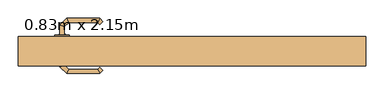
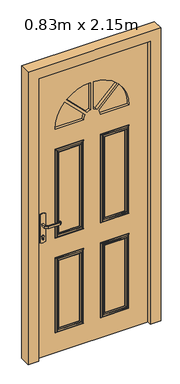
"""IFC4 building model written with IfcOpenShell, lengths in millimetres: door geometry, Entrée - 01 : 0.83m x 2.15m."""

from ifc_helpers import new_model, si_unit, point, frame, frame_2d, origin, place, context, project, spatial, polyline, circle_curve, ellipse_curve, trimmed, segment, composite_curve, outline, extrude, faceted_brep, source, transform, mapped, element, save
from ifc_brep_helpers import plane_surface, cylinder_surface, revolved_surface, advanced_brep


def door_0_83m_x_2_15m_d7885066(model_context):
    return source(origin(), model_context, "Body", "SolidModel", [
        extrude(outline(composite_curve([segment(polyline([(908.0464422, -360.0), (895.0, -360.0)]), True, "CONTINUOUS"), segment(trimmed(circle_curve(frame_2d((895.0, -355.0)), 5.0), [point((895.0, -360.0))], [point((895.0, -350.0))], False, "CARTESIAN"), True, "CONTINUOUS"), segment(polyline([(895.0, -350.0), (908.0464422, -350.0)]), True, "CONTINUOUS"), segment(trimmed(circle_curve(frame_2d((914.2914402, -355.0)), 8.0), [point((908.0464422, -350.0))], [point((908.0464422, -360.0))], False, "CARTESIAN"), True, "CONTINUOUS")], self_intersect=False)), frame((0.0, 65.2546167, 0.0), z_axis=(0.0, 1.0, 0.0), x_axis=(0.0, 0.0, 1.0)), (0.0, 0.0, 1.0), 5.0),
        extrude(outline(composite_curve([segment(polyline([(908.0464422, -360.0), (895.0, -360.0)]), True, "CONTINUOUS"), segment(trimmed(circle_curve(frame_2d((895.0, -355.0)), 5.0), [point((895.0, -360.0))], [point((895.0, -350.0))], False, "CARTESIAN"), True, "CONTINUOUS"), segment(polyline([(895.0, -350.0), (908.0464422, -350.0)]), True, "CONTINUOUS"), segment(trimmed(circle_curve(frame_2d((914.2914402, -355.0)), 8.0), [point((908.0464422, -350.0))], [point((908.0464422, -360.0))], False, "CARTESIAN"), True, "CONTINUOUS")], self_intersect=False)), frame((0.0, 130.2546167, 0.0), z_axis=(0.0, 1.0, 0.0), x_axis=(0.0, 0.0, 1.0)), (0.0, 0.0, 1.0), 3.0),
        advanced_brep(
        [(-349.0, 70.2546167, 993.0), (-361.0, 70.2546167, 993.0), (-361.0, 70.2546167, 1007.0), (-349.0, 70.2546167, 1007.0), (-349.0, 47.7694122, 1007.0), (-349.0, 47.7694122, 993.0), (-361.0, 42.7988495, 1007.0), (-361.0, 42.7988495, 993.0), (-337.5147186, 36.2841309, 1007.0), (-337.5147186, 36.2841309, 993.0), (-342.4852814, 24.2841309, 1007.0), (-342.4852814, 24.2841309, 993.0), (-257.4394977, 36.2841309, 1007.0), (-257.4394977, 36.2841309, 993.0), (-252.468935, 24.2841309, 1007.0), (-252.468935, 24.2841309, 993.0), (-252.1257892, 41.5978394, 993.0), (-252.1257892, 41.5978394, 1007.0), (-243.6405078, 33.112558, 1007.0), (-243.6405078, 33.112558, 993.0)],
        [
            (0, 1, circle_curve(frame((-355.0, 70.2546167, 1013.0457722), z_axis=(0.0, 1.0, 0.0), x_axis=(-1.0, 0.0, 0.0)), 20.9244589)),
            (1, 2),
            (2, 3, circle_curve(frame((-355.0, 70.2546167, 986.9542278), z_axis=(0.0, 1.0, 0.0), x_axis=(-1.0, 0.0, 0.0)), 20.9244589)),
            (3, 0),
            (3, 4),
            (4, 5),
            (5, 0),
            (2, 6),
            (6, 4, ellipse_curve(frame((-355.0, 45.2841309, 986.9542278), z_axis=(-0.3826834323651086, 0.923879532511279, 0.0), x_axis=(0.9238795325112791, 0.3826834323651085, 0.0)), 22.6484711, 20.9244589)),
            (1, 7),
            (7, 6),
            (5, 7, ellipse_curve(frame((-355.0, 45.2841309, 1013.0457722), z_axis=(-0.3826834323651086, 0.923879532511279, 0.0), x_axis=(0.9238795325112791, 0.3826834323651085, 0.0)), 22.6484711, 20.9244589)),
            (4, 8),
            (8, 9),
            (9, 5),
            (6, 10),
            (10, 8, ellipse_curve(frame((-340.0, 30.2841309, 986.9542278), z_axis=(-0.9238795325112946, 0.38268343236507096, 0.0), x_axis=(0.3826834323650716, 0.9238795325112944, 0.0)), 22.6484711, 20.9244589)),
            (7, 11),
            (11, 10),
            (9, 11, ellipse_curve(frame((-340.0, 30.2841309, 1013.0457722), z_axis=(-0.9238795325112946, 0.38268343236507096, 0.0), x_axis=(0.3826834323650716, 0.9238795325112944, 0.0)), 22.6484711, 20.9244589)),
            (8, 12),
            (12, 13),
            (13, 9),
            (10, 14),
            (14, 12, ellipse_curve(frame((-254.9542163, 30.2841309, 986.9542278), z_axis=(-0.9238795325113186, -0.38268343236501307, 0.0), x_axis=(-0.3826834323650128, 0.9238795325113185, 0.0)), 22.6484711, 20.9244589)),
            (11, 15),
            (15, 14),
            (13, 15, ellipse_curve(frame((-254.9542163, 30.2841309, 1013.0457722), z_axis=(-0.9238795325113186, -0.38268343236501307, 0.0), x_axis=(-0.3826834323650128, 0.9238795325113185, 0.0)), 22.6484711, 20.9244589)),
            (16, 17),
            (17, 18, circle_curve(frame((-247.8831485, 37.3551987, 986.9542278), z_axis=(0.707106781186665, 0.7071067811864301, 0.0), x_axis=(0.7071067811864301, -0.707106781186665, 0.0)), 20.9244589)),
            (18, 19),
            (19, 16, circle_curve(frame((-247.8831485, 37.3551987, 1013.0457722), z_axis=(0.707106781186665, 0.7071067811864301, 0.0), x_axis=(0.7071067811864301, -0.707106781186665, 0.0)), 20.9244589)),
            (12, 17),
            (16, 13),
            (14, 18),
            (15, 19),
        ],
        [
            plane_surface(frame((-364.2195445, 70.2546167, 1000.0), z_axis=(0.0, 1.0, 0.0), x_axis=(0.0, 0.0, 1.0))),
            plane_surface(frame((-349.0, 70.2546167, 993.0), z_axis=(1.0, 0.0, 0.0), x_axis=(0.0, -1.0, 0.0))),
            cylinder_surface(frame((-355.0, 70.2546167, 986.9542278), z_axis=(0.0, 1.0, 0.0), x_axis=(-1.0, 0.0, 0.0)), 20.9244589),
            plane_surface(frame((-361.0, 70.2546167, 1007.0), z_axis=(-1.0, 0.0, 0.0), x_axis=(0.0, -1.0, 0.0))),
            cylinder_surface(frame((-355.0, 70.2546167, 1013.0457722), z_axis=(0.0, 1.0, 0.0), x_axis=(-1.0, 0.0, 0.0)), 20.9244589),
            plane_surface(frame((-349.0, 47.7694122, 993.0), z_axis=(0.7071067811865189, 0.7071067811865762, 0.0), x_axis=(0.7071067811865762, -0.7071067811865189, 0.0))),
            cylinder_surface(frame((-355.0, 45.2841309, 986.9542278), z_axis=(-0.7071067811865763, 0.7071067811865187, 0.0), x_axis=(-0.7071067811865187, -0.7071067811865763, 0.0)), 20.9244589),
            plane_surface(frame((-361.0, 42.7988495, 1007.0), z_axis=(-0.7071067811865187, -0.7071067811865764, 0.0), x_axis=(0.7071067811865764, -0.7071067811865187, 0.0))),
            cylinder_surface(frame((-355.0, 45.2841309, 1013.0457722), z_axis=(-0.7071067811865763, 0.7071067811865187, 0.0), x_axis=(-0.7071067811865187, -0.7071067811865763, 0.0)), 20.9244589),
            plane_surface(frame((-337.5147186, 36.2841309, 993.0), z_axis=(0.0, 1.0, 0.0), x_axis=(1.0, 0.0, 0.0))),
            cylinder_surface(frame((-340.0, 30.2841309, 986.9542278), z_axis=(-1.0, 0.0, 0.0), x_axis=(0.0, -1.0, 0.0)), 20.9244589),
            plane_surface(frame((-342.4852814, 24.2841309, 1007.0), z_axis=(0.0, -1.0, 0.0), x_axis=(1.0, 0.0, 0.0))),
            cylinder_surface(frame((-340.0, 30.2841309, 1013.0457722), z_axis=(-1.0, 0.0, 0.0), x_axis=(0.0, -1.0, 0.0)), 20.9244589),
            plane_surface(frame((-247.8831485, 37.3551987, 990.7804555), z_axis=(0.7071067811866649, 0.7071067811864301, 0.0), x_axis=(0.7071067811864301, -0.7071067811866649, 0.0))),
            plane_surface(frame((-257.4394977, 36.2841309, 993.0), z_axis=(-0.7071067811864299, 0.7071067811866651, 0.0), x_axis=(0.7071067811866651, 0.7071067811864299, 0.0))),
            cylinder_surface(frame((-254.9542163, 30.2841309, 986.9542278), z_axis=(-0.707106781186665, -0.7071067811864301, 0.0), x_axis=(0.7071067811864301, -0.707106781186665, 0.0)), 20.9244589),
            plane_surface(frame((-252.468935, 24.2841309, 1007.0), z_axis=(0.7071067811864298, -0.7071067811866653, 0.0), x_axis=(0.7071067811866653, 0.7071067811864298, 0.0))),
            cylinder_surface(frame((-254.9542163, 30.2841309, 1013.0457722), z_axis=(-0.707106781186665, -0.7071067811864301, 0.0), x_axis=(0.7071067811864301, -0.707106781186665, 0.0)), 20.9244589),
        ],
        [
            (0, [[1, 2, 3, 4]]),
            (1, [[5, 6, 7, -4]]),
            (2, [[8, 9, -5, -3]]),
            (3, [[10, 11, -8, -2]]),
            (4, [[-7, 12, -10, -1]]),
            (5, [[13, 14, 15, -6]]),
            (6, [[16, 17, -13, -9]]),
            (7, [[18, 19, -16, -11]]),
            (8, [[-15, 20, -18, -12]]),
            (9, [[21, 22, 23, -14]]),
            (10, [[24, 25, -21, -17]]),
            (11, [[26, 27, -24, -19]]),
            (12, [[-23, 28, -26, -20]]),
            (13, [[29, 30, 31, 32]]),
            (14, [[33, -29, 34, -22]]),
            (15, [[35, -30, -33, -25]]),
            (16, [[36, -31, -35, -27]]),
            (17, [[-34, -32, -36, -28]]),
        ],
    ),
        advanced_brep(
        [(-361.0, 130.2546167, 1007.0), (-361.0, 130.2546167, 993.0), (-349.0, 130.2546167, 993.0), (-349.0, 130.2546167, 1007.0), (-349.0, 152.9350047, 1007.0), (-361.0, 157.9055674, 1007.0), (-349.0, 152.9350047, 993.0), (-361.0, 157.9055674, 993.0), (-337.6522273, 164.2827774, 1007.0), (-342.62279, 176.2827774, 1007.0), (-337.6522273, 164.2827774, 993.0), (-342.62279, 176.2827774, 993.0), (-257.4666408, 164.2827774, 1007.0), (-252.496078, 176.2827774, 1007.0), (-257.4666408, 164.2827774, 993.0), (-252.496078, 176.2827774, 993.0), (-243.6676509, 167.4543503, 1007.0), (-252.1529323, 158.9690689, 1007.0), (-252.1529323, 158.9690689, 993.0), (-243.6676509, 167.4543503, 993.0)],
        [
            (0, 1),
            (1, 2, circle_curve(frame((-355.0, 130.2546167, 1013.0457722), z_axis=(0.0, -1.0, 0.0), x_axis=(1.0, 0.0, 0.0)), 20.9244589)),
            (2, 3),
            (3, 0, circle_curve(frame((-355.0, 130.2546167, 986.9542278), z_axis=(0.0, -1.0, 0.0), x_axis=(1.0, 0.0, 0.0)), 20.9244589)),
            (3, 4),
            (4, 5, ellipse_curve(frame((-355.0, 155.4202861, 986.9542278), z_axis=(-0.3826834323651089, -0.9238795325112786, 0.0), x_axis=(0.9238795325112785, -0.3826834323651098, 0.0)), 22.6484711, 20.9244589)),
            (5, 0),
            (2, 6),
            (6, 4),
            (1, 7),
            (7, 6, ellipse_curve(frame((-355.0, 155.4202861, 1013.0457722), z_axis=(-0.3826834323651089, -0.9238795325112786, 0.0), x_axis=(0.9238795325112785, -0.3826834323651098, 0.0)), 22.6484711, 20.9244589)),
            (5, 7),
            (4, 8),
            (8, 9, ellipse_curve(frame((-340.1375086, 170.2827774, 986.9542278), z_axis=(-0.9238795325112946, -0.38268343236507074, 0.0), x_axis=(0.3826834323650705, -0.9238795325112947, 0.0)), 22.6484711, 20.9244589)),
            (9, 5),
            (6, 10),
            (10, 8),
            (7, 11),
            (11, 10, ellipse_curve(frame((-340.1375086, 170.2827774, 1013.0457722), z_axis=(-0.9238795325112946, -0.38268343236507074, 0.0), x_axis=(0.3826834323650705, -0.9238795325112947, 0.0)), 22.6484711, 20.9244589)),
            (9, 11),
            (8, 12),
            (12, 13, ellipse_curve(frame((-254.9813594, 170.2827774, 986.9542278), z_axis=(-0.9238795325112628, 0.3826834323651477, 0.0), x_axis=(-0.3826834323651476, -0.9238795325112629, 0.0)), 22.6484711, 20.9244589)),
            (13, 9),
            (10, 14),
            (14, 12),
            (11, 15),
            (15, 14, ellipse_curve(frame((-254.9813594, 170.2827774, 1013.0457722), z_axis=(-0.9238795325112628, 0.3826834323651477, 0.0), x_axis=(-0.3826834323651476, -0.9238795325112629, 0.0)), 22.6484711, 20.9244589)),
            (13, 15),
            (16, 17, circle_curve(frame((-247.9102916, 163.2117096, 986.9542278), z_axis=(0.7071067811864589, -0.7071067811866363, 0.0), x_axis=(-0.7071067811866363, -0.7071067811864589, 0.0)), 20.9244589)),
            (17, 18),
            (18, 19, circle_curve(frame((-247.9102916, 163.2117096, 1013.0457722), z_axis=(0.7071067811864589, -0.7071067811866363, 0.0), x_axis=(-0.7071067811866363, -0.7071067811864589, 0.0)), 20.9244589)),
            (19, 16),
            (12, 17),
            (16, 13),
            (14, 18),
            (15, 19),
        ],
        [
            plane_surface(frame((-364.2195445, 130.2546167, 1000.0), z_axis=(0.0, -1.0, 0.0), x_axis=(0.0, 0.0, -1.0))),
            cylinder_surface(frame((-355.0, 130.2546167, 986.9542278), z_axis=(0.0, -1.0, 0.0), x_axis=(1.0, 0.0, 0.0)), 20.9244589),
            plane_surface(frame((-349.0, 130.2546167, 1007.0), z_axis=(1.0, 0.0, 0.0), x_axis=(0.0, 1.0, 0.0))),
            cylinder_surface(frame((-355.0, 130.2546167, 1013.0457722), z_axis=(0.0, -1.0, 0.0), x_axis=(1.0, 0.0, 0.0)), 20.9244589),
            plane_surface(frame((-361.0, 130.2546167, 993.0), z_axis=(-1.0, 0.0, 0.0), x_axis=(0.0, 1.0, 0.0))),
            cylinder_surface(frame((-355.0, 155.4202861, 986.9542278), z_axis=(-0.7071067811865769, -0.7071067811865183, 0.0), x_axis=(0.7071067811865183, -0.7071067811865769, 0.0)), 20.9244589),
            plane_surface(frame((-349.0, 152.9350047, 1007.0), z_axis=(0.7071067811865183, -0.7071067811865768, 0.0), x_axis=(0.7071067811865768, 0.7071067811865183, 0.0))),
            cylinder_surface(frame((-355.0, 155.4202861, 1013.0457722), z_axis=(-0.7071067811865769, -0.7071067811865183, 0.0), x_axis=(0.7071067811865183, -0.7071067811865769, 0.0)), 20.9244589),
            plane_surface(frame((-361.0, 157.9055674, 993.0), z_axis=(-0.7071067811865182, 0.707106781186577, 0.0), x_axis=(0.707106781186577, 0.7071067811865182, 0.0))),
            cylinder_surface(frame((-340.1375086, 170.2827774, 986.9542278), z_axis=(-1.0, 0.0, 0.0), x_axis=(0.0, -1.0, 0.0)), 20.9244589),
            plane_surface(frame((-337.6522273, 164.2827774, 1007.0), z_axis=(0.0, -1.0, 0.0), x_axis=(1.0, 0.0, 0.0))),
            cylinder_surface(frame((-340.1375086, 170.2827774, 1013.0457722), z_axis=(-1.0, 0.0, 0.0), x_axis=(0.0, -1.0, 0.0)), 20.9244589),
            plane_surface(frame((-342.62279, 176.2827774, 993.0), z_axis=(0.0, 1.0, 0.0), x_axis=(1.0, 0.0, 0.0))),
            plane_surface(frame((-247.9102916, 163.2117096, 1009.2195445), z_axis=(0.7071067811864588, -0.7071067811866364, 0.0), x_axis=(0.7071067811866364, 0.7071067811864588, 0.0))),
            cylinder_surface(frame((-254.9813594, 170.2827774, 986.9542278), z_axis=(-0.7071067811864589, 0.7071067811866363, 0.0), x_axis=(-0.7071067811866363, -0.7071067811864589, 0.0)), 20.9244589),
            plane_surface(frame((-257.4666408, 164.2827774, 1007.0), z_axis=(-0.7071067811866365, -0.7071067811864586, 0.0), x_axis=(0.7071067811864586, -0.7071067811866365, 0.0))),
            cylinder_surface(frame((-254.9813594, 170.2827774, 1013.0457722), z_axis=(-0.7071067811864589, 0.7071067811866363, 0.0), x_axis=(-0.7071067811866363, -0.7071067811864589, 0.0)), 20.9244589),
            plane_surface(frame((-252.496078, 176.2827774, 993.0), z_axis=(0.7071067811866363, 0.7071067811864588, 0.0), x_axis=(0.7071067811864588, -0.7071067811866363, 0.0))),
        ],
        [
            (0, [[1, 2, 3, 4]]),
            (1, [[5, 6, 7, -4]]),
            (2, [[8, 9, -5, -3]]),
            (3, [[10, 11, -8, -2]]),
            (4, [[-7, 12, -10, -1]]),
            (5, [[13, 14, 15, -6]]),
            (6, [[16, 17, -13, -9]]),
            (7, [[18, 19, -16, -11]]),
            (8, [[-15, 20, -18, -12]]),
            (9, [[21, 22, 23, -14]]),
            (10, [[24, 25, -21, -17]]),
            (11, [[26, 27, -24, -19]]),
            (12, [[-23, 28, -26, -20]]),
            (13, [[29, 30, 31, 32]]),
            (14, [[33, -29, 34, -22]]),
            (15, [[35, -30, -33, -25]]),
            (16, [[36, -31, -35, -27]]),
            (17, [[-34, -32, -36, -28]]),
        ],
    ),
        extrude(outline(composite_curve([segment(trimmed(circle_curve(frame_2d((1045.3589838, -355.0)), 40.0), [point((1080.0, -335.0))], [point((1080.0, -375.0))], False, "CARTESIAN"), True, "CONTINUOUS"), segment(polyline([(1080.0, -375.0), (870.0, -375.0)]), True, "CONTINUOUS"), segment(trimmed(circle_curve(frame_2d((904.6410162, -355.0)), 40.0), [point((870.0, -375.0))], [point((870.0, -335.0))], False, "CARTESIAN"), True, "CONTINUOUS"), segment(polyline([(870.0, -335.0), (1080.0, -335.0)]), True, "CONTINUOUS")], self_intersect=False)), frame((0.0, 70.2546167, 0.0), z_axis=(0.0, 1.0, 0.0), x_axis=(0.0, 0.0, 1.0)), (0.0, 0.0, 1.0), 5.0),
        extrude(outline(composite_curve([segment(trimmed(circle_curve(frame_2d((904.6410162, -355.0)), 40.0), [point((870.0, -375.0))], [point((870.0, -335.0))], False, "CARTESIAN"), True, "CONTINUOUS"), segment(polyline([(870.0, -335.0), (1080.0, -335.0)]), True, "CONTINUOUS"), segment(trimmed(circle_curve(frame_2d((1045.3589838, -355.0)), 40.0), [point((1080.0, -335.0))], [point((1080.0, -375.0))], False, "CARTESIAN"), True, "CONTINUOUS"), segment(polyline([(1080.0, -375.0), (870.0, -375.0)]), True, "CONTINUOUS")], self_intersect=False)), frame((0.0, 125.2546167, 0.0), z_axis=(0.0, 1.0, 0.0), x_axis=(0.0, 0.0, 1.0)), (0.0, 0.0, 1.0), 5.0),
        faceted_brep([(-475.0, 45.2546167, 0.0), (-475.0, 125.2546167, 0.0), (-415.0, 125.2546167, 0.0), (-415.0, 75.2546167, 0.0), (-400.0, 75.2546167, 0.0), (-400.0, 45.2546167, 0.0), (-400.0, 45.2546167, 2135.0), (400.0, 45.2546167, 2135.0), (400.0, 45.2546167, 0.0), (475.0, 45.2546167, 0.0), (475.0, 45.2546167, 2210.0), (-475.0, 45.2546167, 2210.0), (-400.0, 75.2546167, 2135.0), (-415.0, 75.2546167, 2150.0), (415.0, 75.2546167, 2150.0), (415.0, 75.2546167, 0.0), (400.0, 75.2546167, 0.0), (400.0, 75.2546167, 2135.0), (-415.0, 125.2546167, 2150.0), (-475.0, 125.2546167, 2210.0), (475.0, 125.2546167, 2210.0), (475.0, 125.2546167, 0.0), (415.0, 125.2546167, 0.0), (415.0, 125.2546167, 2150.0)], [[[0, 1, 2, 3, 4, 5]], [[5, 6, 7, 8, 9, 10, 11, 0]], [[4, 12, 6, 5]], [[3, 13, 14, 15, 16, 17, 12, 4]], [[2, 18, 13, 3]], [[1, 19, 20, 21, 22, 23, 18, 2]], [[0, 11, 19, 1]], [[10, 9, 21, 20]], [[9, 8, 16, 15, 22, 21]], [[17, 16, 8, 7]], [[23, 22, 15, 14]], [[12, 17, 7, 6]], [[18, 23, 14, 13]], [[11, 10, 20, 19]]]),
        extrude(outline(composite_curve([segment(trimmed(circle_curve(frame_2d((1685.0, 0.0)), 265.0), [point((1865.1787653, -194.3209009))], [point((1685.0, -265.0))], False, "CARTESIAN"), True, "CONTINUOUS"), segment(polyline([(1685.0, -265.0), (1685.0, -60.0)]), True, "CONTINUOUS"), segment(trimmed(circle_curve(frame_2d((1685.0, 0.0)), 60.0), [point((1685.0, -60.0))], [point((1719.7619335, -48.9040691))], True, "CARTESIAN"), True, "CONTINUOUS"), segment(polyline([(1719.7619335, -48.9040691), (1865.1787653, -194.3209009)]), True, "CONTINUOUS")], self_intersect=False)), frame((0.0, 95.2546167, 0.0), z_axis=(0.0, 1.0, 0.0), x_axis=(0.0, 0.0, 1.0)), (0.0, 0.0, 1.0), 10.0),
        extrude(outline(composite_curve([segment(trimmed(circle_curve(frame_2d((1685.0, 0.0)), 265.0068632), [point((1949.8181217, -10.0))], [point((1879.3257574, -180.1836218))], False, "CARTESIAN"), True, "CONTINUOUS"), segment(polyline([(1879.3257574, -180.1836218), (1733.9040691, -34.7619335)]), True, "CONTINUOUS"), segment(trimmed(circle_curve(frame_2d((1685.0, 0.0)), 60.0), [point((1733.9040691, -34.7619335))], [point((1744.1607978, -10.0))], True, "CARTESIAN"), True, "CONTINUOUS"), segment(polyline([(1744.1607978, -10.0), (1949.8181217, -10.0)]), True, "CONTINUOUS")], self_intersect=False)), frame((0.0, 95.2546167, 0.0), z_axis=(0.0, 1.0, 0.0), x_axis=(0.0, 0.0, 1.0)), (0.0, 0.0, 1.0), 10.0),
        extrude(outline(composite_curve([segment(trimmed(circle_curve(frame_2d((1685.0, 0.0)), 60.0), [point((1744.1607978, 10.0))], [point((1733.9040691, 34.7619335))], True, "CARTESIAN"), True, "CONTINUOUS"), segment(polyline([(1733.9040691, 34.7619335), (1879.3257574, 180.1836218)]), True, "CONTINUOUS"), segment(trimmed(circle_curve(frame_2d((1685.0, 0.0)), 265.0068632), [point((1879.3257574, 180.1836218))], [point((1949.8181217, 10.0))], False, "CARTESIAN"), True, "CONTINUOUS"), segment(polyline([(1949.8181217, 10.0), (1744.1607978, 10.0)]), True, "CONTINUOUS")], self_intersect=False)), frame((0.0, 95.2546167, 0.0), z_axis=(0.0, 1.0, 0.0), x_axis=(0.0, 0.0, 1.0)), (0.0, 0.0, 1.0), 10.0),
        extrude(outline(composite_curve([segment(trimmed(circle_curve(frame_2d((1685.0, 0.0)), 265.0), [point((1685.0, 265.0))], [point((1865.1787653, 194.3209009))], False, "CARTESIAN"), True, "CONTINUOUS"), segment(polyline([(1865.1787653, 194.3209009), (1719.7619335, 48.9040691)]), True, "CONTINUOUS"), segment(trimmed(circle_curve(frame_2d((1685.0, 0.0)), 60.0), [point((1719.7619335, 48.9040691))], [point((1685.0, 60.0))], True, "CARTESIAN"), True, "CONTINUOUS"), segment(polyline([(1685.0, 60.0), (1685.0, 265.0)]), True, "CONTINUOUS")], self_intersect=False)), frame((0.0, 95.2546167, 0.0), z_axis=(0.0, 1.0, 0.0), x_axis=(0.0, 0.0, 1.0)), (0.0, 0.0, 1.0), 10.0),
        extrude(outline(polyline([(2150.0, -415.0), (0.0, -415.0), (0.0, 415.0), (2150.0, 415.0), (2150.0, -415.0)]), holes=[composite_curve([segment(polyline([(1865.1787653, -194.3209009), (1719.7619335, -48.9040691)]), True, "CONTINUOUS"), segment(trimmed(circle_curve(frame_2d((1685.0, 0.0)), 60.0), [point((1719.7619335, -48.9040691))], [point((1685.0, -60.0))], False, "CARTESIAN"), True, "CONTINUOUS"), segment(polyline([(1685.0, -60.0), (1685.0, -265.0)]), True, "CONTINUOUS"), segment(trimmed(circle_curve(frame_2d((1685.0, 0.0)), 265.0), [point((1685.0, -265.0))], [point((1865.1787653, -194.3209009))], True, "CARTESIAN"), True, "CONTINUOUS")], self_intersect=False), composite_curve([segment(polyline([(1719.7619335, 48.9040691), (1865.1787653, 194.3209009)]), True, "CONTINUOUS"), segment(trimmed(circle_curve(frame_2d((1685.0, 0.0)), 265.0), [point((1865.1787653, 194.3209009))], [point((1685.0, 265.0))], True, "CARTESIAN"), True, "CONTINUOUS"), segment(polyline([(1685.0, 265.0), (1685.0, 60.0)]), True, "CONTINUOUS"), segment(trimmed(circle_curve(frame_2d((1685.0, 0.0)), 60.0), [point((1685.0, 60.0))], [point((1719.7619335, 48.9040691))], False, "CARTESIAN"), True, "CONTINUOUS")], self_intersect=False), composite_curve([segment(polyline([(1949.8181217, -10.0), (1744.1607978, -10.0)]), True, "CONTINUOUS"), segment(trimmed(circle_curve(frame_2d((1685.0, 0.0)), 60.0), [point((1744.1607978, -10.0))], [point((1733.9040691, -34.7619335))], False, "CARTESIAN"), True, "CONTINUOUS"), segment(polyline([(1733.9040691, -34.7619335), (1879.3257574, -180.1836218)]), True, "CONTINUOUS"), segment(trimmed(circle_curve(frame_2d((1685.0, 0.0)), 265.0068632), [point((1879.3257574, -180.1836218))], [point((1949.8181217, -10.0))], True, "CARTESIAN"), True, "CONTINUOUS")], self_intersect=False), composite_curve([segment(trimmed(circle_curve(frame_2d((1685.0, 0.0)), 265.0068632), [point((1949.8181217, 10.0))], [point((1879.3257574, 180.1836218))], True, "CARTESIAN"), True, "CONTINUOUS"), segment(polyline([(1879.3257574, 180.1836218), (1733.9040691, 34.7619335)]), True, "CONTINUOUS"), segment(trimmed(circle_curve(frame_2d((1685.0, 0.0)), 60.0), [point((1733.9040691, 34.7619335))], [point((1744.1607978, 10.0))], False, "CARTESIAN"), True, "CONTINUOUS"), segment(polyline([(1744.1607978, 10.0), (1949.8181217, 10.0)]), True, "CONTINUOUS")], self_intersect=False)]), frame((0.0, 75.2546167, 0.0), z_axis=(0.0, 1.0, 0.0), x_axis=(0.0, 0.0, 1.0)), (0.0, 0.0, 1.0), 50.0),
        advanced_brep(
        [(-265.0, 73.2546167, 866.6666667), (-265.0, 73.2546167, 1535.0), (-265.0, 75.2546167, 1535.0), (-265.0, 75.2546167, 866.6666667), (-257.9088796, 68.2546167, 873.7577871), (-257.9088796, 68.2546167, 1527.9088796), (-262.851518, 73.2546167, 1532.851518), (-262.851518, 73.2546167, 868.8151487), (-245.0, 68.2546167, 886.6666667), (-245.0, 68.2546167, 1515.0), (-255.0, 68.2546167, 1525.0), (-255.0, 68.2546167, 876.6666667), (-236.9651836, 73.2546167, 894.701483), (-236.9651836, 73.2546167, 1506.9651836), (-242.0232109, 68.2546167, 1512.0232109), (-242.0232109, 68.2546167, 889.6434558), (-235.0, 75.2546167, 896.6666667), (-235.0, 75.2546167, 1505.0), (-235.0, 73.2546167, 1505.0), (-235.0, 73.2546167, 896.6666667), (-60.0, 73.2546167, 1535.0), (-60.0, 75.2546167, 1535.0), (-67.0911204, 68.2546167, 1527.9088796), (-62.148482, 73.2546167, 1532.851518), (-80.0, 68.2546167, 1515.0), (-70.0, 68.2546167, 1525.0), (-88.0348164, 73.2546167, 1506.9651836), (-82.9767891, 68.2546167, 1512.0232109), (-90.0, 75.2546167, 1505.0), (-90.0, 73.2546167, 1505.0), (-60.0, 73.2546167, 866.6666667), (-60.0, 75.2546167, 866.6666667), (-67.0911204, 68.2546167, 873.7577871), (-62.148482, 73.2546167, 868.8151487), (-80.0, 68.2546167, 886.6666667), (-70.0, 68.2546167, 876.6666667), (-88.0348164, 73.2546167, 894.701483), (-82.9767891, 68.2546167, 889.6434558), (-90.0, 75.2546167, 896.6666667), (-90.0, 73.2546167, 896.6666667)],
        [
            (0, 1),
            (1, 2),
            (2, 3),
            (3, 0),
            (4, 5),
            (5, 6),
            (6, 7),
            (7, 4),
            (8, 9),
            (9, 10, ellipse_curve(frame((-250.0, 63.0049426, 1520.0), z_axis=(0.7071067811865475, 0.0, 0.7071067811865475), x_axis=(-0.7071067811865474, 0.0, 0.7071067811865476)), 10.2527146, 7.249764)),
            (10, 11),
            (11, 8, ellipse_curve(frame((-250.0, 63.0049426, 881.6666667), z_axis=(0.7071067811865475, 0.0, -0.7071067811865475), x_axis=(0.7071067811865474, 0.0, 0.7071067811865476)), 10.2527146, 7.249764)),
            (12, 13),
            (13, 14),
            (14, 15),
            (15, 12),
            (16, 17),
            (17, 18),
            (18, 19),
            (19, 16),
            (1, 20),
            (20, 21),
            (21, 2),
            (5, 22),
            (22, 23),
            (23, 6),
            (9, 24),
            (24, 25, ellipse_curve(frame((-75.0, 63.0049426, 1520.0), z_axis=(0.7071067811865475, 0.0, -0.7071067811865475), x_axis=(0.7071067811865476, 0.0, 0.7071067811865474)), 10.2527146, 7.249764)),
            (25, 10),
            (13, 26),
            (26, 27),
            (27, 14),
            (17, 28),
            (28, 29),
            (29, 18),
            (20, 30),
            (30, 31),
            (31, 21),
            (22, 32),
            (32, 33),
            (33, 23),
            (24, 34),
            (34, 35, ellipse_curve(frame((-75.0, 63.0049426, 881.6666667), z_axis=(-0.7071067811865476, 0.0, -0.7071067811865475), x_axis=(0.7071067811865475, 0.0, -0.7071067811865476)), 10.2527146, 7.249764)),
            (35, 25),
            (26, 36),
            (36, 37),
            (37, 27),
            (28, 38),
            (38, 39),
            (39, 29),
            (31, 3),
            (16, 38),
            (30, 0),
            (33, 7),
            (32, 4),
            (35, 11),
            (34, 8),
            (37, 15),
            (36, 12),
            (39, 19),
        ],
        [
            plane_surface(frame((-265.0, 75.2546167, 866.6666667), z_axis=(-1.0, 0.0, 0.0), x_axis=(0.0, 0.0, 1.0))),
            plane_surface(frame((-262.851518, 73.2546167, 868.8151487), z_axis=(-0.7111744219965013, -0.7030156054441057, 0.0), x_axis=(0.0, 0.0, 1.0))),
            revolved_surface(polyline([(-257.249764, 63.0049426, 1527.2497640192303), (-257.249764, 63.0049426, 874.4169026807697)]), (-250.0, 63.0049426, 866.6666667), (0.0, 0.0, 1.0)),
            plane_surface(frame((-242.0232109, 68.2546167, 889.6434558), z_axis=(0.7030156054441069, -0.7111744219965, 0.0), x_axis=(0.0, 0.0, 1.0))),
            plane_surface(frame((-235.0, 73.2546167, 896.6666667), z_axis=(1.0, 0.0, 0.0), x_axis=(0.0, 0.0, 1.0))),
            plane_surface(frame((-265.0, 75.2546167, 1535.0), z_axis=(0.0, 0.0, 1.0), x_axis=(1.0, 0.0, 0.0))),
            plane_surface(frame((-262.851518, 73.2546167, 1532.851518), z_axis=(0.0, -0.7030156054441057, 0.7111744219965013), x_axis=(1.0, 0.0, 0.0))),
            revolved_surface(polyline([(-67.75023598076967, 63.0049426, 1527.249764), (-257.2497640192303, 63.0049426, 1527.249764)]), (-265.0, 63.0049426, 1520.0), (1.0, 0.0, 0.0)),
            plane_surface(frame((-242.0232109, 68.2546167, 1512.0232109), z_axis=(0.0, -0.7111744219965, -0.7030156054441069), x_axis=(1.0, 0.0, 0.0))),
            plane_surface(frame((-235.0, 73.2546167, 1505.0), z_axis=(0.0, 0.0, -1.0), x_axis=(1.0, 0.0, 0.0))),
            plane_surface(frame((-60.0, 75.2546167, 1535.0), z_axis=(1.0, 0.0, 0.0), x_axis=(0.0, 0.0, -1.0))),
            plane_surface(frame((-62.148482, 73.2546167, 1532.851518), z_axis=(0.7111744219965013, -0.7030156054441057, 0.0), x_axis=(0.0, 0.0, -1.0))),
            revolved_surface(polyline([(-67.750236, 63.0049426, 874.4169026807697), (-67.750236, 63.0049426, 1527.2497640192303)]), (-75.0, 63.0049426, 1535.0), (0.0, 0.0, -1.0)),
            plane_surface(frame((-82.9767891, 68.2546167, 1512.0232109), z_axis=(-0.7030156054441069, -0.7111744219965, 0.0), x_axis=(0.0, 0.0, -1.0))),
            plane_surface(frame((-90.0, 73.2546167, 1505.0), z_axis=(-1.0, 0.0, 0.0), x_axis=(0.0, 0.0, -1.0))),
            plane_surface(frame((-90.0, 75.2546167, 896.6666667), z_axis=(0.0, 1.0, 0.0), x_axis=(-1.0, 0.0, 0.0))),
            plane_surface(frame((-60.0, 75.2546167, 866.6666667), z_axis=(0.0, 0.0, -1.0), x_axis=(-1.0, 0.0, 0.0))),
            plane_surface(frame((-60.0, 73.2546167, 866.6666667), z_axis=(0.0, -1.0, 0.0), x_axis=(-1.0, 0.0, 0.0))),
            plane_surface(frame((-62.148482, 73.2546167, 868.8151487), z_axis=(0.0, -0.7030156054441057, -0.7111744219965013), x_axis=(-1.0, 0.0, 0.0))),
            plane_surface(frame((-67.0911204, 68.2546167, 873.7577871), z_axis=(0.0, -1.0, 0.0), x_axis=(-1.0, 0.0, 0.0))),
            revolved_surface(polyline([(-257.2497640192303, 63.0049426, 874.4169026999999), (-67.75023598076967, 63.0049426, 874.4169026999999)]), (-60.0, 63.0049426, 881.6666667), (-1.0, 0.0, 0.0)),
            plane_surface(frame((-80.0, 68.2546167, 886.6666667), z_axis=(0.0, -1.0, 0.0), x_axis=(-1.0, 0.0, 0.0))),
            plane_surface(frame((-82.9767891, 68.2546167, 889.6434558), z_axis=(0.0, -0.7111744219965, 0.7030156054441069), x_axis=(-1.0, 0.0, 0.0))),
            plane_surface(frame((-88.0348164, 73.2546167, 894.701483), z_axis=(0.0, -1.0, 0.0), x_axis=(-1.0, 0.0, 0.0))),
            plane_surface(frame((-90.0, 73.2546167, 896.6666667), z_axis=(0.0, 0.0, 1.0), x_axis=(-1.0, 0.0, 0.0))),
        ],
        [
            (0, [[1, 2, 3, 4]]),
            (1, [[5, 6, 7, 8]]),
            (2, [[9, 10, 11, 12]]),
            (3, [[13, 14, 15, 16]]),
            (4, [[17, 18, 19, 20]]),
            (5, [[21, 22, 23, -2]]),
            (6, [[24, 25, 26, -6]]),
            (7, [[27, 28, 29, -10]]),
            (8, [[30, 31, 32, -14]]),
            (9, [[33, 34, 35, -18]]),
            (10, [[36, 37, 38, -22]]),
            (11, [[39, 40, 41, -25]]),
            (12, [[42, 43, 44, -28]]),
            (13, [[45, 46, 47, -31]]),
            (14, [[48, 49, 50, -34]]),
            (15, [[-3, -23, -38, 51], [-17, 52, -48, -33]]),
            (16, [[53, -4, -51, -37]]),
            (17, [[-1, -53, -36, -21], [-7, -26, -41, 54]]),
            (18, [[55, -8, -54, -40]]),
            (19, [[-5, -55, -39, -24], [-11, -29, -44, 56]]),
            (20, [[57, -12, -56, -43]]),
            (21, [[-9, -57, -42, -27], [-15, -32, -47, 58]]),
            (22, [[59, -16, -58, -46]]),
            (23, [[-13, -59, -45, -30], [-19, -35, -50, 60]]),
            (24, [[-52, -20, -60, -49]]),
        ],
    ),
        advanced_brep(
        [(60.0, 73.2546167, 866.6666667), (60.0, 73.2546167, 1535.0), (60.0, 75.2546167, 1535.0), (60.0, 75.2546167, 866.6666667), (67.0911204, 68.2546167, 873.7577871), (67.0911204, 68.2546167, 1527.9088796), (62.148482, 73.2546167, 1532.851518), (62.148482, 73.2546167, 868.8151487), (80.0, 68.2546167, 886.6666667), (80.0, 68.2546167, 1515.0), (70.0, 68.2546167, 1525.0), (70.0, 68.2546167, 876.6666667), (88.0348164, 73.2546167, 894.701483), (88.0348164, 73.2546167, 1506.9651836), (82.9767891, 68.2546167, 1512.0232109), (82.9767891, 68.2546167, 889.6434558), (90.0, 75.2546167, 896.6666667), (90.0, 75.2546167, 1505.0), (90.0, 73.2546167, 1505.0), (90.0, 73.2546167, 896.6666667), (265.0, 73.2546167, 1535.0), (265.0, 75.2546167, 1535.0), (257.9088796, 68.2546167, 1527.9088796), (262.851518, 73.2546167, 1532.851518), (245.0, 68.2546167, 1515.0), (255.0, 68.2546167, 1525.0), (236.9651836, 73.2546167, 1506.9651836), (242.0232109, 68.2546167, 1512.0232109), (235.0, 75.2546167, 1505.0), (235.0, 73.2546167, 1505.0), (265.0, 73.2546167, 866.6666667), (265.0, 75.2546167, 866.6666667), (257.9088796, 68.2546167, 873.7577871), (262.851518, 73.2546167, 868.8151487), (245.0, 68.2546167, 886.6666667), (255.0, 68.2546167, 876.6666667), (236.9651836, 73.2546167, 894.701483), (242.0232109, 68.2546167, 889.6434558), (235.0, 75.2546167, 896.6666667), (235.0, 73.2546167, 896.6666667)],
        [
            (0, 1),
            (1, 2),
            (2, 3),
            (3, 0),
            (4, 5),
            (5, 6),
            (6, 7),
            (7, 4),
            (8, 9),
            (9, 10, ellipse_curve(frame((75.0, 63.0049426, 1520.0), z_axis=(0.7071067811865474, 0.0, 0.7071067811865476), x_axis=(-0.7071067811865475, 0.0, 0.7071067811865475)), 10.2527146, 7.249764)),
            (10, 11),
            (11, 8, ellipse_curve(frame((75.0, 63.0049426, 881.6666667), z_axis=(0.7071067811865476, 0.0, -0.7071067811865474), x_axis=(0.7071067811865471, 0.0, 0.7071067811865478)), 10.2527146, 7.249764)),
            (12, 13),
            (13, 14),
            (14, 15),
            (15, 12),
            (16, 17),
            (17, 18),
            (18, 19),
            (19, 16),
            (1, 20),
            (20, 21),
            (21, 2),
            (5, 22),
            (22, 23),
            (23, 6),
            (9, 24),
            (24, 25, ellipse_curve(frame((250.0, 63.0049426, 1520.0), z_axis=(0.7071067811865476, 0.0, -0.7071067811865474), x_axis=(0.7071067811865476, 0.0, 0.7071067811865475)), 10.2527146, 7.249764)),
            (25, 10),
            (13, 26),
            (26, 27),
            (27, 14),
            (17, 28),
            (28, 29),
            (29, 18),
            (20, 30),
            (30, 31),
            (31, 21),
            (22, 32),
            (32, 33),
            (33, 23),
            (24, 34),
            (34, 35, ellipse_curve(frame((250.0, 63.0049426, 881.6666667), z_axis=(-0.7071067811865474, 0.0, -0.7071067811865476), x_axis=(0.7071067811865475, 0.0, -0.7071067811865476)), 10.2527146, 7.249764)),
            (35, 25),
            (26, 36),
            (36, 37),
            (37, 27),
            (28, 38),
            (38, 39),
            (39, 29),
            (31, 3),
            (16, 38),
            (30, 0),
            (33, 7),
            (32, 4),
            (35, 11),
            (34, 8),
            (37, 15),
            (36, 12),
            (39, 19),
        ],
        [
            plane_surface(frame((60.0, 75.2546167, 866.6666667), z_axis=(-1.0, 0.0, 0.0), x_axis=(0.0, 0.0, 1.0))),
            plane_surface(frame((62.148482, 73.2546167, 868.8151487), z_axis=(-0.7111744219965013, -0.7030156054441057, 0.0), x_axis=(0.0, 0.0, 1.0))),
            revolved_surface(polyline([(67.750236, 63.0049426, 1527.2497640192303), (67.750236, 63.0049426, 874.4169026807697)]), (75.0, 63.0049426, 866.6666667), (0.0, 0.0, 1.0)),
            plane_surface(frame((82.9767891, 68.2546167, 889.6434558), z_axis=(0.7030156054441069, -0.7111744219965, 0.0), x_axis=(0.0, 0.0, 1.0))),
            plane_surface(frame((90.0, 73.2546167, 896.6666667), z_axis=(1.0, 0.0, 0.0), x_axis=(0.0, 0.0, 1.0))),
            plane_surface(frame((60.0, 75.2546167, 1535.0), z_axis=(0.0, 0.0, 1.0), x_axis=(1.0, 0.0, 0.0))),
            plane_surface(frame((62.148482, 73.2546167, 1532.851518), z_axis=(0.0, -0.7030156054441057, 0.7111744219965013), x_axis=(1.0, 0.0, 0.0))),
            revolved_surface(polyline([(257.2497640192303, 63.0049426, 1527.249764), (67.75023598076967, 63.0049426, 1527.249764)]), (60.0, 63.0049426, 1520.0), (1.0, 0.0, 0.0)),
            plane_surface(frame((82.9767891, 68.2546167, 1512.0232109), z_axis=(0.0, -0.7111744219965, -0.7030156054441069), x_axis=(1.0, 0.0, 0.0))),
            plane_surface(frame((90.0, 73.2546167, 1505.0), z_axis=(0.0, 0.0, -1.0), x_axis=(1.0, 0.0, 0.0))),
            plane_surface(frame((265.0, 75.2546167, 1535.0), z_axis=(1.0, 0.0, 0.0), x_axis=(0.0, 0.0, -1.0))),
            plane_surface(frame((262.851518, 73.2546167, 1532.851518), z_axis=(0.7111744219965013, -0.7030156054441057, 0.0), x_axis=(0.0, 0.0, -1.0))),
            revolved_surface(polyline([(257.249764, 63.0049426, 874.4169026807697), (257.249764, 63.0049426, 1527.2497640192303)]), (250.0, 63.0049426, 1535.0), (0.0, 0.0, -1.0)),
            plane_surface(frame((242.0232109, 68.2546167, 1512.0232109), z_axis=(-0.7030156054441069, -0.7111744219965, 0.0), x_axis=(0.0, 0.0, -1.0))),
            plane_surface(frame((235.0, 73.2546167, 1505.0), z_axis=(-1.0, 0.0, 0.0), x_axis=(0.0, 0.0, -1.0))),
            plane_surface(frame((235.0, 75.2546167, 896.6666667), z_axis=(0.0, 1.0, 0.0), x_axis=(-1.0, 0.0, 0.0))),
            plane_surface(frame((265.0, 75.2546167, 866.6666667), z_axis=(0.0, 0.0, -1.0), x_axis=(-1.0, 0.0, 0.0))),
            plane_surface(frame((265.0, 73.2546167, 866.6666667), z_axis=(0.0, -1.0, 0.0), x_axis=(-1.0, 0.0, 0.0))),
            plane_surface(frame((262.851518, 73.2546167, 868.8151487), z_axis=(0.0, -0.7030156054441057, -0.7111744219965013), x_axis=(-1.0, 0.0, 0.0))),
            plane_surface(frame((257.9088796, 68.2546167, 873.7577871), z_axis=(0.0, -1.0, 0.0), x_axis=(-1.0, 0.0, 0.0))),
            revolved_surface(polyline([(67.75023598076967, 63.0049426, 874.4169026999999), (257.2497640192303, 63.0049426, 874.4169026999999)]), (265.0, 63.0049426, 881.6666667), (-1.0, 0.0, 0.0)),
            plane_surface(frame((245.0, 68.2546167, 886.6666667), z_axis=(0.0, -1.0, 0.0), x_axis=(-1.0, 0.0, 0.0))),
            plane_surface(frame((242.0232109, 68.2546167, 889.6434558), z_axis=(0.0, -0.7111744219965, 0.7030156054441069), x_axis=(-1.0, 0.0, 0.0))),
            plane_surface(frame((236.9651836, 73.2546167, 894.701483), z_axis=(0.0, -1.0, 0.0), x_axis=(-1.0, 0.0, 0.0))),
            plane_surface(frame((235.0, 73.2546167, 896.6666667), z_axis=(0.0, 0.0, 1.0), x_axis=(-1.0, 0.0, 0.0))),
        ],
        [
            (0, [[1, 2, 3, 4]]),
            (1, [[5, 6, 7, 8]]),
            (2, [[9, 10, 11, 12]]),
            (3, [[13, 14, 15, 16]]),
            (4, [[17, 18, 19, 20]]),
            (5, [[21, 22, 23, -2]]),
            (6, [[24, 25, 26, -6]]),
            (7, [[27, 28, 29, -10]]),
            (8, [[30, 31, 32, -14]]),
            (9, [[33, 34, 35, -18]]),
            (10, [[36, 37, 38, -22]]),
            (11, [[39, 40, 41, -25]]),
            (12, [[42, 43, 44, -28]]),
            (13, [[45, 46, 47, -31]]),
            (14, [[48, 49, 50, -34]]),
            (15, [[-3, -23, -38, 51], [-17, 52, -48, -33]]),
            (16, [[53, -4, -51, -37]]),
            (17, [[-1, -53, -36, -21], [-7, -26, -41, 54]]),
            (18, [[55, -8, -54, -40]]),
            (19, [[-5, -55, -39, -24], [-11, -29, -44, 56]]),
            (20, [[57, -12, -56, -43]]),
            (21, [[-9, -57, -42, -27], [-15, -32, -47, 58]]),
            (22, [[59, -16, -58, -46]]),
            (23, [[-13, -59, -45, -30], [-19, -35, -50, 60]]),
            (24, [[-52, -20, -60, -49]]),
        ],
    ),
        advanced_brep(
        [(-265.0, 73.2546167, 150.0), (-265.0, 73.2546167, 716.6666667), (-265.0, 75.2546167, 716.6666667), (-265.0, 75.2546167, 150.0), (-257.9088796, 68.2546167, 157.0911204), (-257.9088796, 68.2546167, 709.5755462), (-262.851518, 73.2546167, 714.5181846), (-262.851518, 73.2546167, 152.148482), (-245.0, 68.2546167, 170.0), (-245.0, 68.2546167, 696.6666667), (-255.0, 68.2546167, 706.6666667), (-255.0, 68.2546167, 160.0), (-236.9651836, 73.2546167, 178.0348164), (-236.9651836, 73.2546167, 688.6318503), (-242.0232109, 68.2546167, 693.6898776), (-242.0232109, 68.2546167, 172.9767891), (-235.0, 75.2546167, 180.0), (-235.0, 75.2546167, 686.6666667), (-235.0, 73.2546167, 686.6666667), (-235.0, 73.2546167, 180.0), (-60.0, 73.2546167, 716.6666667), (-60.0, 75.2546167, 716.6666667), (-67.0911204, 68.2546167, 709.5755462), (-62.148482, 73.2546167, 714.5181846), (-80.0, 68.2546167, 696.6666667), (-70.0, 68.2546167, 706.6666667), (-88.0348164, 73.2546167, 688.6318503), (-82.9767891, 68.2546167, 693.6898776), (-90.0, 75.2546167, 686.6666667), (-90.0, 73.2546167, 686.6666667), (-60.0, 73.2546167, 150.0), (-60.0, 75.2546167, 150.0), (-67.0911204, 68.2546167, 157.0911204), (-62.148482, 73.2546167, 152.148482), (-80.0, 68.2546167, 170.0), (-70.0, 68.2546167, 160.0), (-88.0348164, 73.2546167, 178.0348164), (-82.9767891, 68.2546167, 172.9767891), (-90.0, 75.2546167, 180.0), (-90.0, 73.2546167, 180.0)],
        [
            (0, 1),
            (1, 2),
            (2, 3),
            (3, 0),
            (4, 5),
            (5, 6),
            (6, 7),
            (7, 4),
            (8, 9),
            (9, 10, ellipse_curve(frame((-250.0, 63.0049426, 701.6666667), z_axis=(0.7071067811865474, 0.0, 0.7071067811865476), x_axis=(-0.7071067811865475, 0.0, 0.7071067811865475)), 10.2527146, 7.249764)),
            (10, 11),
            (11, 8, ellipse_curve(frame((-250.0, 63.0049426, 165.0), z_axis=(0.7071067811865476, 0.0, -0.7071067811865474), x_axis=(0.7071067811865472, 0.0, 0.7071067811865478)), 10.2527146, 7.249764)),
            (12, 13),
            (13, 14),
            (14, 15),
            (15, 12),
            (16, 17),
            (17, 18),
            (18, 19),
            (19, 16),
            (1, 20),
            (20, 21),
            (21, 2),
            (5, 22),
            (22, 23),
            (23, 6),
            (9, 24),
            (24, 25, ellipse_curve(frame((-75.0, 63.0049426, 701.6666667), z_axis=(0.7071067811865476, 0.0, -0.7071067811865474), x_axis=(0.7071067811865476, 0.0, 0.7071067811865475)), 10.2527146, 7.249764)),
            (25, 10),
            (13, 26),
            (26, 27),
            (27, 14),
            (17, 28),
            (28, 29),
            (29, 18),
            (20, 30),
            (30, 31),
            (31, 21),
            (22, 32),
            (32, 33),
            (33, 23),
            (24, 34),
            (34, 35, ellipse_curve(frame((-75.0, 63.0049426, 165.0), z_axis=(-0.7071067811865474, 0.0, -0.7071067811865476), x_axis=(0.7071067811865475, 0.0, -0.7071067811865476)), 10.2527146, 7.249764)),
            (35, 25),
            (26, 36),
            (36, 37),
            (37, 27),
            (28, 38),
            (38, 39),
            (39, 29),
            (31, 3),
            (16, 38),
            (30, 0),
            (33, 7),
            (32, 4),
            (35, 11),
            (34, 8),
            (37, 15),
            (36, 12),
            (39, 19),
        ],
        [
            plane_surface(frame((-265.0, 75.2546167, 150.0), z_axis=(-1.0, 0.0, 0.0), x_axis=(0.0, 0.0, 1.0))),
            plane_surface(frame((-262.851518, 73.2546167, 152.148482), z_axis=(-0.7111744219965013, -0.7030156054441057, 0.0), x_axis=(0.0, 0.0, 1.0))),
            revolved_surface(polyline([(-257.249764, 63.0049426, 708.9164307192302), (-257.249764, 63.0049426, 157.75023598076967)]), (-250.0, 63.0049426, 150.0), (0.0, 0.0, 1.0)),
            plane_surface(frame((-242.0232109, 68.2546167, 172.9767891), z_axis=(0.7030156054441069, -0.7111744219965, 0.0), x_axis=(0.0, 0.0, 1.0))),
            plane_surface(frame((-235.0, 73.2546167, 180.0), z_axis=(1.0, 0.0, 0.0), x_axis=(0.0, 0.0, 1.0))),
            plane_surface(frame((-265.0, 75.2546167, 716.6666667), z_axis=(0.0, 0.0, 1.0), x_axis=(1.0, 0.0, 0.0))),
            plane_surface(frame((-262.851518, 73.2546167, 714.5181846), z_axis=(0.0, -0.7030156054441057, 0.7111744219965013), x_axis=(1.0, 0.0, 0.0))),
            revolved_surface(polyline([(-67.75023598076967, 63.0049426, 708.9164307), (-257.2497640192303, 63.0049426, 708.9164307)]), (-265.0, 63.0049426, 701.6666667), (1.0, 0.0, 0.0)),
            plane_surface(frame((-242.0232109, 68.2546167, 693.6898776), z_axis=(0.0, -0.7111744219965, -0.7030156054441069), x_axis=(1.0, 0.0, 0.0))),
            plane_surface(frame((-235.0, 73.2546167, 686.6666667), z_axis=(0.0, 0.0, -1.0), x_axis=(1.0, 0.0, 0.0))),
            plane_surface(frame((-60.0, 75.2546167, 716.6666667), z_axis=(1.0, 0.0, 0.0), x_axis=(0.0, 0.0, -1.0))),
            plane_surface(frame((-62.148482, 73.2546167, 714.5181846), z_axis=(0.7111744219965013, -0.7030156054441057, 0.0), x_axis=(0.0, 0.0, -1.0))),
            revolved_surface(polyline([(-67.750236, 63.0049426, 157.75023598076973), (-67.750236, 63.0049426, 708.9164307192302)]), (-75.0, 63.0049426, 716.6666667), (0.0, 0.0, -1.0)),
            plane_surface(frame((-82.9767891, 68.2546167, 693.6898776), z_axis=(-0.7030156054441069, -0.7111744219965, 0.0), x_axis=(0.0, 0.0, -1.0))),
            plane_surface(frame((-90.0, 73.2546167, 686.6666667), z_axis=(-1.0, 0.0, 0.0), x_axis=(0.0, 0.0, -1.0))),
            plane_surface(frame((-90.0, 75.2546167, 180.0), z_axis=(0.0, 1.0, 0.0), x_axis=(-1.0, 0.0, 0.0))),
            plane_surface(frame((-60.0, 75.2546167, 150.0), z_axis=(0.0, 0.0, -1.0), x_axis=(-1.0, 0.0, 0.0))),
            plane_surface(frame((-60.0, 73.2546167, 150.0), z_axis=(0.0, -1.0, 0.0), x_axis=(-1.0, 0.0, 0.0))),
            plane_surface(frame((-62.148482, 73.2546167, 152.148482), z_axis=(0.0, -0.7030156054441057, -0.7111744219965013), x_axis=(-1.0, 0.0, 0.0))),
            plane_surface(frame((-67.0911204, 68.2546167, 157.0911204), z_axis=(0.0, -1.0, 0.0), x_axis=(-1.0, 0.0, 0.0))),
            revolved_surface(polyline([(-257.2497640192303, 63.0049426, 157.750236), (-67.75023598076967, 63.0049426, 157.750236)]), (-60.0, 63.0049426, 165.0), (-1.0, 0.0, 0.0)),
            plane_surface(frame((-80.0, 68.2546167, 170.0), z_axis=(0.0, -1.0, 0.0), x_axis=(-1.0, 0.0, 0.0))),
            plane_surface(frame((-82.9767891, 68.2546167, 172.9767891), z_axis=(0.0, -0.7111744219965, 0.7030156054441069), x_axis=(-1.0, 0.0, 0.0))),
            plane_surface(frame((-88.0348164, 73.2546167, 178.0348164), z_axis=(0.0, -1.0, 0.0), x_axis=(-1.0, 0.0, 0.0))),
            plane_surface(frame((-90.0, 73.2546167, 180.0), z_axis=(0.0, 0.0, 1.0), x_axis=(-1.0, 0.0, 0.0))),
        ],
        [
            (0, [[1, 2, 3, 4]]),
            (1, [[5, 6, 7, 8]]),
            (2, [[9, 10, 11, 12]]),
            (3, [[13, 14, 15, 16]]),
            (4, [[17, 18, 19, 20]]),
            (5, [[21, 22, 23, -2]]),
            (6, [[24, 25, 26, -6]]),
            (7, [[27, 28, 29, -10]]),
            (8, [[30, 31, 32, -14]]),
            (9, [[33, 34, 35, -18]]),
            (10, [[36, 37, 38, -22]]),
            (11, [[39, 40, 41, -25]]),
            (12, [[42, 43, 44, -28]]),
            (13, [[45, 46, 47, -31]]),
            (14, [[48, 49, 50, -34]]),
            (15, [[-3, -23, -38, 51], [-17, 52, -48, -33]]),
            (16, [[53, -4, -51, -37]]),
            (17, [[-1, -53, -36, -21], [-7, -26, -41, 54]]),
            (18, [[55, -8, -54, -40]]),
            (19, [[-5, -55, -39, -24], [-11, -29, -44, 56]]),
            (20, [[57, -12, -56, -43]]),
            (21, [[-9, -57, -42, -27], [-15, -32, -47, 58]]),
            (22, [[59, -16, -58, -46]]),
            (23, [[-13, -59, -45, -30], [-19, -35, -50, 60]]),
            (24, [[-52, -20, -60, -49]]),
        ],
    ),
        advanced_brep(
        [(60.0, 73.2546167, 150.0), (60.0, 73.2546167, 716.6666667), (60.0, 75.2546167, 716.6666667), (60.0, 75.2546167, 150.0), (67.0911204, 68.2546167, 157.0911204), (67.0911204, 68.2546167, 709.5755462), (62.148482, 73.2546167, 714.5181846), (62.148482, 73.2546167, 152.148482), (80.0, 68.2546167, 170.0), (80.0, 68.2546167, 696.6666667), (70.0, 68.2546167, 706.6666667), (70.0, 68.2546167, 160.0), (88.0348164, 73.2546167, 178.0348164), (88.0348164, 73.2546167, 688.6318503), (82.9767891, 68.2546167, 693.6898776), (82.9767891, 68.2546167, 172.9767891), (90.0, 75.2546167, 180.0), (90.0, 75.2546167, 686.6666667), (90.0, 73.2546167, 686.6666667), (90.0, 73.2546167, 180.0), (265.0, 73.2546167, 716.6666667), (265.0, 75.2546167, 716.6666667), (257.9088796, 68.2546167, 709.5755462), (262.851518, 73.2546167, 714.5181846), (245.0, 68.2546167, 696.6666667), (255.0, 68.2546167, 706.6666667), (236.9651836, 73.2546167, 688.6318503), (242.0232109, 68.2546167, 693.6898776), (235.0, 75.2546167, 686.6666667), (235.0, 73.2546167, 686.6666667), (265.0, 73.2546167, 150.0), (265.0, 75.2546167, 150.0), (257.9088796, 68.2546167, 157.0911204), (262.851518, 73.2546167, 152.148482), (245.0, 68.2546167, 170.0), (255.0, 68.2546167, 160.0), (236.9651836, 73.2546167, 178.0348164), (242.0232109, 68.2546167, 172.9767891), (235.0, 75.2546167, 180.0), (235.0, 73.2546167, 180.0)],
        [
            (0, 1),
            (1, 2),
            (2, 3),
            (3, 0),
            (4, 5),
            (5, 6),
            (6, 7),
            (7, 4),
            (8, 9),
            (9, 10, ellipse_curve(frame((75.0, 63.0049426, 701.6666667), z_axis=(0.7071067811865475, 0.0, 0.7071067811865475), x_axis=(-0.7071067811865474, 0.0, 0.7071067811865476)), 10.2527146, 7.249764)),
            (10, 11),
            (11, 8, ellipse_curve(frame((75.0, 63.0049426, 165.0), z_axis=(0.7071067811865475, 0.0, -0.7071067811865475), x_axis=(0.7071067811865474, 0.0, 0.7071067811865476)), 10.2527146, 7.249764)),
            (12, 13),
            (13, 14),
            (14, 15),
            (15, 12),
            (16, 17),
            (17, 18),
            (18, 19),
            (19, 16),
            (1, 20),
            (20, 21),
            (21, 2),
            (5, 22),
            (22, 23),
            (23, 6),
            (9, 24),
            (24, 25, ellipse_curve(frame((250.0, 63.0049426, 701.6666667), z_axis=(0.7071067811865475, 0.0, -0.7071067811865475), x_axis=(0.7071067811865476, 0.0, 0.7071067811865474)), 10.2527146, 7.249764)),
            (25, 10),
            (13, 26),
            (26, 27),
            (27, 14),
            (17, 28),
            (28, 29),
            (29, 18),
            (20, 30),
            (30, 31),
            (31, 21),
            (22, 32),
            (32, 33),
            (33, 23),
            (24, 34),
            (34, 35, ellipse_curve(frame((250.0, 63.0049426, 165.0), z_axis=(-0.7071067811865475, 0.0, -0.7071067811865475), x_axis=(0.7071067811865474, 0.0, -0.7071067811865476)), 10.2527146, 7.249764)),
            (35, 25),
            (26, 36),
            (36, 37),
            (37, 27),
            (28, 38),
            (38, 39),
            (39, 29),
            (31, 3),
            (16, 38),
            (30, 0),
            (33, 7),
            (32, 4),
            (35, 11),
            (34, 8),
            (37, 15),
            (36, 12),
            (39, 19),
        ],
        [
            plane_surface(frame((60.0, 75.2546167, 150.0), z_axis=(-1.0, 0.0, 0.0), x_axis=(0.0, 0.0, 1.0))),
            plane_surface(frame((62.148482, 73.2546167, 152.148482), z_axis=(-0.7111744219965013, -0.7030156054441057, 0.0), x_axis=(0.0, 0.0, 1.0))),
            revolved_surface(polyline([(67.750236, 63.0049426, 708.9164307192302), (67.750236, 63.0049426, 157.75023598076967)]), (75.0, 63.0049426, 150.0), (0.0, 0.0, 1.0)),
            plane_surface(frame((82.9767891, 68.2546167, 172.9767891), z_axis=(0.7030156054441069, -0.7111744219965, 0.0), x_axis=(0.0, 0.0, 1.0))),
            plane_surface(frame((90.0, 73.2546167, 180.0), z_axis=(1.0, 0.0, 0.0), x_axis=(0.0, 0.0, 1.0))),
            plane_surface(frame((60.0, 75.2546167, 716.6666667), z_axis=(0.0, 0.0, 1.0), x_axis=(1.0, 0.0, 0.0))),
            plane_surface(frame((62.148482, 73.2546167, 714.5181846), z_axis=(0.0, -0.7030156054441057, 0.7111744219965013), x_axis=(1.0, 0.0, 0.0))),
            revolved_surface(polyline([(257.2497640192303, 63.0049426, 708.9164307), (67.75023598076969, 63.0049426, 708.9164307)]), (60.0, 63.0049426, 701.6666667), (1.0, 0.0, 0.0)),
            plane_surface(frame((82.9767891, 68.2546167, 693.6898776), z_axis=(0.0, -0.7111744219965, -0.7030156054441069), x_axis=(1.0, 0.0, 0.0))),
            plane_surface(frame((90.0, 73.2546167, 686.6666667), z_axis=(0.0, 0.0, -1.0), x_axis=(1.0, 0.0, 0.0))),
            plane_surface(frame((265.0, 75.2546167, 716.6666667), z_axis=(1.0, 0.0, 0.0), x_axis=(0.0, 0.0, -1.0))),
            plane_surface(frame((262.851518, 73.2546167, 714.5181846), z_axis=(0.7111744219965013, -0.7030156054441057, 0.0), x_axis=(0.0, 0.0, -1.0))),
            revolved_surface(polyline([(257.249764, 63.0049426, 157.75023598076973), (257.249764, 63.0049426, 708.9164307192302)]), (250.0, 63.0049426, 716.6666667), (0.0, 0.0, -1.0)),
            plane_surface(frame((242.0232109, 68.2546167, 693.6898776), z_axis=(-0.7030156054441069, -0.7111744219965, 0.0), x_axis=(0.0, 0.0, -1.0))),
            plane_surface(frame((235.0, 73.2546167, 686.6666667), z_axis=(-1.0, 0.0, 0.0), x_axis=(0.0, 0.0, -1.0))),
            plane_surface(frame((235.0, 75.2546167, 180.0), z_axis=(0.0, 1.0, 0.0), x_axis=(-1.0, 0.0, 0.0))),
            plane_surface(frame((265.0, 75.2546167, 150.0), z_axis=(0.0, 0.0, -1.0), x_axis=(-1.0, 0.0, 0.0))),
            plane_surface(frame((265.0, 73.2546167, 150.0), z_axis=(0.0, -1.0, 0.0), x_axis=(-1.0, 0.0, 0.0))),
            plane_surface(frame((262.851518, 73.2546167, 152.148482), z_axis=(0.0, -0.7030156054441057, -0.7111744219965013), x_axis=(-1.0, 0.0, 0.0))),
            plane_surface(frame((257.9088796, 68.2546167, 157.0911204), z_axis=(0.0, -1.0, 0.0), x_axis=(-1.0, 0.0, 0.0))),
            revolved_surface(polyline([(67.75023598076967, 63.0049426, 157.750236), (257.2497640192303, 63.0049426, 157.750236)]), (265.0, 63.0049426, 165.0), (-1.0, 0.0, 0.0)),
            plane_surface(frame((245.0, 68.2546167, 170.0), z_axis=(0.0, -1.0, 0.0), x_axis=(-1.0, 0.0, 0.0))),
            plane_surface(frame((242.0232109, 68.2546167, 172.9767891), z_axis=(0.0, -0.7111744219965, 0.7030156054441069), x_axis=(-1.0, 0.0, 0.0))),
            plane_surface(frame((236.9651836, 73.2546167, 178.0348164), z_axis=(0.0, -1.0, 0.0), x_axis=(-1.0, 0.0, 0.0))),
            plane_surface(frame((235.0, 73.2546167, 180.0), z_axis=(0.0, 0.0, 1.0), x_axis=(-1.0, 0.0, 0.0))),
        ],
        [
            (0, [[1, 2, 3, 4]]),
            (1, [[5, 6, 7, 8]]),
            (2, [[9, 10, 11, 12]]),
            (3, [[13, 14, 15, 16]]),
            (4, [[17, 18, 19, 20]]),
            (5, [[21, 22, 23, -2]]),
            (6, [[24, 25, 26, -6]]),
            (7, [[27, 28, 29, -10]]),
            (8, [[30, 31, 32, -14]]),
            (9, [[33, 34, 35, -18]]),
            (10, [[36, 37, 38, -22]]),
            (11, [[39, 40, 41, -25]]),
            (12, [[42, 43, 44, -28]]),
            (13, [[45, 46, 47, -31]]),
            (14, [[48, 49, 50, -34]]),
            (15, [[-3, -23, -38, 51], [-17, 52, -48, -33]]),
            (16, [[53, -4, -51, -37]]),
            (17, [[-1, -53, -36, -21], [-7, -26, -41, 54]]),
            (18, [[55, -8, -54, -40]]),
            (19, [[-5, -55, -39, -24], [-11, -29, -44, 56]]),
            (20, [[57, -12, -56, -43]]),
            (21, [[-9, -57, -42, -27], [-15, -32, -47, 58]]),
            (22, [[59, -16, -58, -46]]),
            (23, [[-13, -59, -45, -30], [-19, -35, -50, 60]]),
            (24, [[-52, -20, -60, -49]]),
        ],
    ),
    ])


if __name__ == "__main__":
    model = new_model("IFC4")
    model_context = context("Model", 3, world=origin())
    ifc_project = project(units=[si_unit("LENGTHUNIT", "METRE", prefix="MILLI")], contexts=[model_context])
    site = spatial("IfcSite", under=ifc_project)
    building = spatial("IfcBuilding", under=site)
    placement = place(None, origin())
    door_0_83m_x_2_15m_shape = door_0_83m_x_2_15m_d7885066(model_context)
    element("IfcDoor", 1, ObjectType="Entrée - 01 : 0.83m x 2.15m", at=placement, inside=building, context=model_context, shape_type="MappedRepresentation", body=[
        mapped(door_0_83m_x_2_15m_shape, transform((0.0, 0.0, 0.0), x_axis=(1.0, 0.0, 0.0), y_axis=(0.0, 1.0, 0.0), z_axis=(0.0, 0.0, 1.0))),
    ])
    save(model, "model.ifc")
